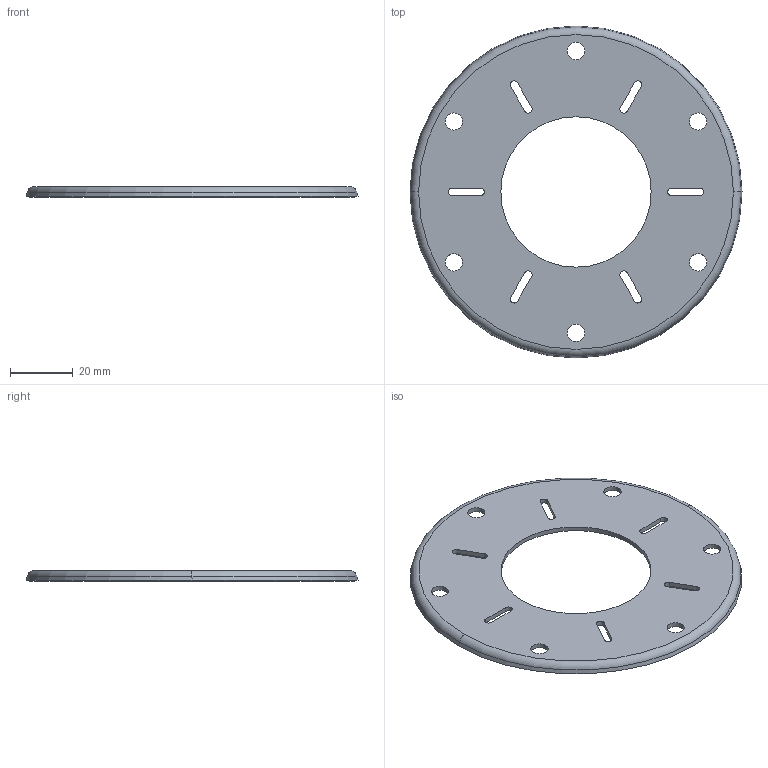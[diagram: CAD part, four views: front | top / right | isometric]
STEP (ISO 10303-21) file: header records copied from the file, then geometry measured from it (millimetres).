
FILE_DESCRIPTION (( 'STEP AP214' ), '1' );
FILE_NAME ('0338 Reibscheibe.STEP', '2025-03-26T07:36:37', ( '' ), ( '' ), 'SwSTEP 2.0', 'SolidWorks 2022', '' );
FILE_SCHEMA (( 'AUTOMOTIVE_DESIGN' ));
Length unit declared in the file: millimetre
Products named in the file (1): 0338 Reibscheibe
Bounding box: 106 x 106 x 3.5 mm (x, y, z)
Volume: 10443.7 mm3; surface area: 15108 mm2
Topology: 1 solids, 1 shells, 56 faces, 154 edges, 100 vertices
Faces by surface type: cylinder 32, plane 14, cone 6, torus 4
Entity records: 1900 total; most frequent: DIRECTION 348, CARTESIAN_POINT 311, ORIENTED_EDGE 308, EDGE_CURVE 154, AXIS2_PLACEMENT_3D 137, VERTEX_POINT 100, EDGE_LOOP 82, CIRCLE 80
